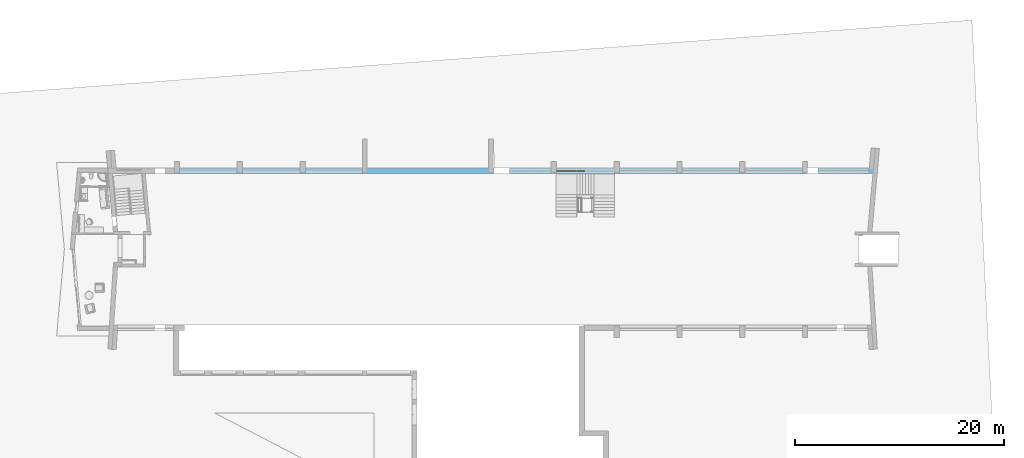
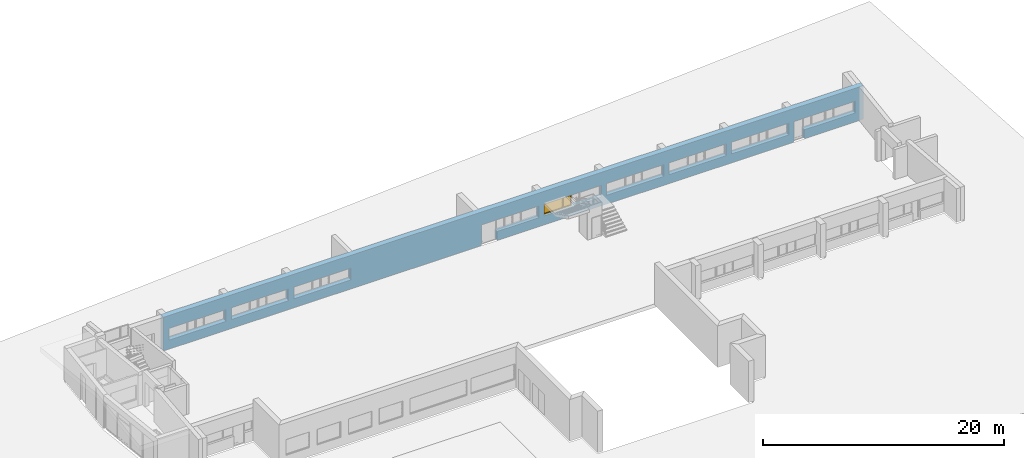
# One storey, part 21 of 36: 1 window, 20 openings, plus 1 element that does not belong to this part.
"""IFC2X3 building model written with IfcOpenShell, lengths in millimetres."""

from ifc_helpers import new_model, entity, si_unit, converted_unit, money_unit, direction, frame, origin_with_axes, place, context, subcontext, project, spatial, polyline, outline, extrude, open_shell, faceted_brep, surface_model, material, material_list, layer, layer_set, layer_usage, type_object, element, fill, save


model = new_model("IFC2X3")

# Units and contexts
model_context = context("Model", 3, precision=1e-05, world=origin_with_axes(), true_north=direction((0.0, 1.0)))
body_context = subcontext(model_context, "Body", "Model", "MODEL_VIEW")
ifc_project = project(units=[si_unit("LENGTHUNIT", "METRE", prefix="MILLI"), si_unit("AREAUNIT", "SQUARE_METRE"), si_unit("VOLUMEUNIT", "CUBIC_METRE"), converted_unit("PLANEANGLEUNIT", "DEGREE", entity("IfcPlaneAngleMeasure", 0.0174532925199), si_unit("PLANEANGLEUNIT", "RADIAN"), dimensions=[0, 0, 0, 0, 0, 0, 0]), si_unit("SOLIDANGLEUNIT", "STERADIAN"), money_unit("USD"), converted_unit("TIMEUNIT", "Year", entity("IfcTimeMeasure", 31556926.0), si_unit("TIMEUNIT", "SECOND"), dimensions=[0, 0, 0, 0, 0, 0, 0]), si_unit("MASSUNIT", "GRAM"), si_unit("THERMODYNAMICTEMPERATUREUNIT", "DEGREE_CELSIUS"), si_unit("LUMINOUSINTENSITYUNIT", "LUMEN")], contexts=[model_context])

# Site, building, storey
site_placement = place(None, origin_with_axes())
site = spatial("IfcSite", under=ifc_project, at=site_placement, Name="Site", CompositionType="ELEMENT")
building_placement = place(site_placement, origin_with_axes())
building = spatial("IfcBuilding", under=site, at=building_placement, Name="Building", CompositionType="ELEMENT")
storey_placement = place(building_placement, frame((0.0, 0.0, -3400.0), z_axis=(0.0, 0.0, 1.0), x_axis=(1.0, 0.0, 0.0)))
storey = spatial("IfcBuildingStorey", under=building, at=storey_placement, Name="1KORRUS", CompositionType="ELEMENT", Elevation=-3400.0)

# Wall, openings, window
ifc_material_1 = material(Name="Olemasolevad seinad tellis, uus viimistlus")
ifc_layer = layer(ifc_material_1, 500.0, ventilated="UNKNOWN")
ifc_layer_set = layer_set([ifc_layer], Name="Olemasolevad seinad tellis, uus viimistlus 500")
ifc_layer_usage = layer_usage(ifc_layer_set, "AXIS2", "POSITIVE", -100.0)
wall_type = type_object("IfcWallType", Name="Olemasolevad seinad tellis, uus viimistlus 500", PredefinedType="NOTDEFINED")
wall_placement = place(storey_placement, frame((-48393.8274049, -5039.6041088, 0.0), z_axis=(0.0, 0.0, 1.0), x_axis=(1.0, 0.0, 0.0)))
wall = element("IfcWallStandardCase", 1, at=wall_placement, inside=storey, type_object=wall_type, material=ifc_layer_usage, Name="VS1", ObjectType="VS1", context=body_context, shape_type="SweptSolid", body=[
    extrude(outline(polyline([(0.0, -100.0), (67149.8194303, -100.0), (67149.8194303, 400.0), (0.0, 400.0), (0.0, -100.0)])), origin_with_axes(), (0.0, 0.0, 1.0), 3400.0),
])
opening_1_placement = place(wall_placement, frame((1878.53070154, 0.0, 900.0), z_axis=(0.0, 0.0, 1.0), x_axis=(1.0, 0.0, 0.0)))
element("IfcOpeningElement", 2, at=opening_1_placement, cuts=wall, Name="Olemasolevad aknad jäävad", context=body_context, shape_type="SweptSolid", body=[
    extrude(outline(polyline([(-1375.0, 1200.0), (-1375.0, 0.0), (1375.0, 0.0), (1375.0, 1200.0), (-1375.0, 1200.0)])), frame((0.0, 250.0, 0.0), z_axis=(0.0, -1.0, 0.0), x_axis=(1.0, 0.0, 0.0)), (0.0, 0.0, 1.0), 850.0),
    extrude(outline(polyline([(-1375.0, 0.0), (-1375.0, -1200.0), (1375.0, -1200.0), (1375.0, 0.0), (-1375.0, 0.0)])), frame((0.0, 250.0, 0.0), z_axis=(0.0, 1.0, 0.0), x_axis=(1.0, 0.0, 0.0)), (0.0, 0.0, 1.0), 650.0),
])
opening_2_placement = place(wall_placement, frame((7878.53070154, 0.0, 900.0), z_axis=(0.0, 0.0, 1.0), x_axis=(1.0, 0.0, 0.0)))
element("IfcOpeningElement", 3, at=opening_2_placement, cuts=wall, Name="Olemasolevad aknad jäävad", context=body_context, shape_type="SweptSolid", body=[
    extrude(outline(polyline([(-1375.0, 1200.0), (-1375.0, 0.0), (1375.0, 0.0), (1375.0, 1200.0), (-1375.0, 1200.0)])), frame((0.0, 250.0, 0.0), z_axis=(0.0, -1.0, 0.0), x_axis=(1.0, 0.0, 0.0)), (0.0, 0.0, 1.0), 850.0),
    extrude(outline(polyline([(-1375.0, 0.0), (-1375.0, -1200.0), (1375.0, -1200.0), (1375.0, 0.0), (-1375.0, 0.0)])), frame((0.0, 250.0, 0.0), z_axis=(0.0, 1.0, 0.0), x_axis=(1.0, 0.0, 0.0)), (0.0, 0.0, 1.0), 650.0),
])
opening_3_placement = place(wall_placement, frame((13878.5307015, 0.0, 900.0), z_axis=(0.0, 0.0, 1.0), x_axis=(1.0, 0.0, 0.0)))
element("IfcOpeningElement", 4, at=opening_3_placement, cuts=wall, Name="Olemasolevad aknad jäävad", context=body_context, shape_type="SweptSolid", body=[
    extrude(outline(polyline([(-1375.0, 1200.0), (-1375.0, 0.0), (1375.0, 0.0), (1375.0, 1200.0), (-1375.0, 1200.0)])), frame((0.0, 250.0, 0.0), z_axis=(0.0, -1.0, 0.0), x_axis=(1.0, 0.0, 0.0)), (0.0, 0.0, 1.0), 850.0),
    extrude(outline(polyline([(-1375.0, 0.0), (-1375.0, -1200.0), (1375.0, -1200.0), (1375.0, 0.0), (-1375.0, 0.0)])), frame((0.0, 250.0, 0.0), z_axis=(0.0, 1.0, 0.0), x_axis=(1.0, 0.0, 0.0)), (0.0, 0.0, 1.0), 650.0),
])
opening_4_placement = place(wall_placement, frame((4628.53070154, 0.0, 900.0), z_axis=(0.0, 0.0, 1.0), x_axis=(1.0, 0.0, 0.0)))
element("IfcOpeningElement", 5, at=opening_4_placement, cuts=wall, Name="Olemasolevad aknad jäävad", context=body_context, shape_type="SweptSolid", body=[
    extrude(outline(polyline([(1375.0, 1200.0), (-1375.0, 1200.0), (-1375.0, 0.0), (1375.0, 0.0), (1375.0, 1200.0)])), frame((0.0, 250.0, 0.0), z_axis=(0.0, -1.0, 0.0), x_axis=(1.0, 0.0, 0.0)), (0.0, 0.0, 1.0), 850.0),
    extrude(outline(polyline([(1375.0, 0.0), (-1375.0, 0.0), (-1375.0, -1200.0), (1375.0, -1200.0), (1375.0, 0.0)])), frame((0.0, 250.0, 0.0), z_axis=(0.0, 1.0, 0.0), x_axis=(1.0, 0.0, 0.0)), (0.0, 0.0, 1.0), 650.0),
])
opening_5_placement = place(wall_placement, frame((10628.5307015, 0.0, 900.0), z_axis=(0.0, 0.0, 1.0), x_axis=(1.0, 0.0, 0.0)))
element("IfcOpeningElement", 6, at=opening_5_placement, cuts=wall, Name="Olemasolevad aknad jäävad", context=body_context, shape_type="SweptSolid", body=[
    extrude(outline(polyline([(1375.0, 1200.0), (-1375.0, 1200.0), (-1375.0, 0.0), (1375.0, 0.0), (1375.0, 1200.0)])), frame((0.0, 250.0, 0.0), z_axis=(0.0, -1.0, 0.0), x_axis=(1.0, 0.0, 0.0)), (0.0, 0.0, 1.0), 850.0),
    extrude(outline(polyline([(1375.0, 0.0), (-1375.0, 0.0), (-1375.0, -1200.0), (1375.0, -1200.0), (1375.0, 0.0)])), frame((0.0, 250.0, 0.0), z_axis=(0.0, 1.0, 0.0), x_axis=(1.0, 0.0, 0.0)), (0.0, 0.0, 1.0), 650.0),
])
opening_6_placement = place(wall_placement, frame((16616.9651775, 0.0, 900.0), z_axis=(0.0, 0.0, 1.0), x_axis=(1.0, 0.0, 0.0)))
element("IfcOpeningElement", 7, at=opening_6_placement, cuts=wall, Name="Olemasolevad aknad jäävad", context=body_context, shape_type="SweptSolid", body=[
    extrude(outline(polyline([(1375.0, 1200.0), (-1375.0, 1200.0), (-1375.0, 0.0), (1375.0, 0.0), (1375.0, 1200.0)])), frame((0.0, 250.0, 0.0), z_axis=(0.0, -1.0, 0.0), x_axis=(1.0, 0.0, 0.0)), (0.0, 0.0, 1.0), 850.0),
    extrude(outline(polyline([(1375.0, 0.0), (-1375.0, 0.0), (-1375.0, -1200.0), (1375.0, -1200.0), (1375.0, 0.0)])), frame((0.0, 250.0, 0.0), z_axis=(0.0, 1.0, 0.0), x_axis=(1.0, 0.0, 0.0)), (0.0, 0.0, 1.0), 650.0),
])
opening_7_placement = place(wall_placement, frame((34803.5307015, 0.0, 900.0), z_axis=(0.0, 0.0, 1.0), x_axis=(1.0, 0.0, 0.0)))
element("IfcOpeningElement", 8, at=opening_7_placement, cuts=wall, Name="Olemasolevad aknad jäävad", context=body_context, shape_type="SweptSolid", body=[
    extrude(outline(polyline([(1200.0, 0.0), (-1200.0, 0.0), (-1200.0, -1200.0), (1200.0, -1200.0), (1200.0, 0.0)])), frame((0.0, 100.0, 0.0), z_axis=(0.0, 1.0, 0.0), x_axis=(1.0, 0.0, 0.0)), (0.0, 0.0, 1.0), 800.0),
    extrude(outline(polyline([(1200.0, 1200.0), (-1200.0, 1200.0), (-1200.0, 0.0), (1200.0, 0.0), (1200.0, 1200.0)])), frame((0.0, 100.0, 0.0), z_axis=(0.0, -1.0, 0.0), x_axis=(1.0, 0.0, 0.0)), (0.0, 0.0, 1.0), 700.0),
])
opening_8_placement = place(wall_placement, frame((40625.1633636, 0.0, 900.0), z_axis=(0.0, 0.0, 1.0), x_axis=(1.0, 0.0, 0.0)))
element("IfcOpeningElement", 9, at=opening_8_placement, cuts=wall, Name="Olemasolevad aknad jäävad", context=body_context, shape_type="SweptSolid", body=[
    extrude(outline(polyline([(1400.0, 0.0), (-1400.0, 0.0), (-1400.0, -1200.0), (1400.0, -1200.0), (1400.0, 0.0)])), frame((0.0, 100.0, 0.0), z_axis=(0.0, 1.0, 0.0), x_axis=(1.0, 0.0, 0.0)), (0.0, 0.0, 1.0), 800.0),
    extrude(outline(polyline([(1400.0, 1200.0), (-1400.0, 1200.0), (-1400.0, 0.0), (1400.0, 0.0), (1400.0, 1200.0)])), frame((0.0, 100.0, 0.0), z_axis=(0.0, -1.0, 0.0), x_axis=(1.0, 0.0, 0.0)), (0.0, 0.0, 1.0), 700.0),
])
opening_9_placement = place(wall_placement, frame((37871.3218818, 0.0, 900.0), z_axis=(0.0, 0.0, 1.0), x_axis=(1.0, 0.0, 0.0)))
opening_9 = element("IfcOpeningElement", 10, at=opening_9_placement, cuts=wall, Name="Olemasolevad aknad jäävad", context=body_context, shape_type="SweptSolid", body=[
    extrude(outline(polyline([(-1367.791, 0.0), (-1367.791, -1200.0), (1367.791, -1200.0), (1367.791, 0.0), (-1367.791, 0.0)])), frame((0.0, 150.0, 0.0), z_axis=(0.0, 1.0, 0.0), x_axis=(1.0, 0.0, 0.0)), (0.0, 0.0, 1.0), 750.0),
    extrude(outline(polyline([(-1367.791, 1200.0), (-1367.791, 0.0), (1367.791, 0.0), (1367.791, 1200.0), (-1367.791, 1200.0)])), frame((0.0, 150.0, 0.0), z_axis=(0.0, -1.0, 0.0), x_axis=(1.0, 0.0, 0.0)), (0.0, 0.0, 1.0), 750.0),
])
opening_10_placement = place(wall_placement, frame((46628.5307015, 0.0, 900.0), z_axis=(0.0, 0.0, 1.0), x_axis=(1.0, 0.0, 0.0)))
element("IfcOpeningElement", 11, at=opening_10_placement, cuts=wall, Name="Olemasolevad aknad jäävad", context=body_context, shape_type="SweptSolid", body=[
    extrude(outline(polyline([(1375.0, 1200.0), (-1375.0, 1200.0), (-1375.0, 0.0), (1375.0, 0.0), (1375.0, 1200.0)])), frame((0.0, 150.0, 0.0), z_axis=(0.0, -1.0, 0.0), x_axis=(1.0, 0.0, 0.0)), (0.0, 0.0, 1.0), 750.0),
    extrude(outline(polyline([(1375.0, 0.0), (-1375.0, 0.0), (-1375.0, -1200.0), (1375.0, -1200.0), (1375.0, 0.0)])), frame((0.0, 150.0, 0.0), z_axis=(0.0, 1.0, 0.0), x_axis=(1.0, 0.0, 0.0)), (0.0, 0.0, 1.0), 750.0),
])
opening_11_placement = place(wall_placement, frame((43878.5307015, 0.0, 900.0), z_axis=(0.0, 0.0, 1.0), x_axis=(1.0, 0.0, 0.0)))
element("IfcOpeningElement", 12, at=opening_11_placement, cuts=wall, Name="Olemasolevad aknad jäävad", context=body_context, shape_type="SweptSolid", body=[
    extrude(outline(polyline([(-1375.0, 1200.0), (-1375.0, 0.0), (1375.0, 0.0), (1375.0, 1200.0), (-1375.0, 1200.0)])), frame((0.0, 200.0, 0.0), z_axis=(0.0, -1.0, 0.0), x_axis=(1.0, 0.0, 0.0)), (0.0, 0.0, 1.0), 800.0),
    extrude(outline(polyline([(-1375.0, 0.0), (-1375.0, -1200.0), (1375.0, -1200.0), (1375.0, 0.0), (-1375.0, 0.0)])), frame((0.0, 200.0, 0.0), z_axis=(0.0, 1.0, 0.0), x_axis=(1.0, 0.0, 0.0)), (0.0, 0.0, 1.0), 700.0),
])
opening_12_placement = place(wall_placement, frame((52635.3834465, 0.0, 900.0), z_axis=(0.0, 0.0, 1.0), x_axis=(1.0, 0.0, 0.0)))
element("IfcOpeningElement", 13, at=opening_12_placement, cuts=wall, Name="Olemasolevad aknad jäävad", context=body_context, shape_type="SweptSolid", body=[
    extrude(outline(polyline([(1376.809, 1200.0), (-1376.809, 1200.0), (-1376.809, 0.0), (1376.809, 0.0), (1376.809, 1200.0)])), frame((0.0, 150.0, 0.0), z_axis=(0.0, -1.0, 0.0), x_axis=(1.0, 0.0, 0.0)), (0.0, 0.0, 1.0), 750.0),
    extrude(outline(polyline([(1376.809, 0.0), (-1376.809, 0.0), (-1376.809, -1200.0), (1376.809, -1200.0), (1376.809, 0.0)])), frame((0.0, 150.0, 0.0), z_axis=(0.0, 1.0, 0.0), x_axis=(1.0, 0.0, 0.0)), (0.0, 0.0, 1.0), 750.0),
])
opening_13_placement = place(wall_placement, frame((49883.9987013, 0.0, 900.0), z_axis=(0.0, 0.0, 1.0), x_axis=(1.0, 0.0, 0.0)))
element("IfcOpeningElement", 14, at=opening_13_placement, cuts=wall, Name="Olemasolevad aknad jäävad", context=body_context, shape_type="SweptSolid", body=[
    extrude(outline(polyline([(-1375.0, 1200.0), (-1375.0, 0.0), (1375.0, 0.0), (1375.0, 1200.0), (-1375.0, 1200.0)])), frame((0.0, 200.0, 0.0), z_axis=(0.0, -1.0, 0.0), x_axis=(1.0, 0.0, 0.0)), (0.0, 0.0, 1.0), 800.0),
    extrude(outline(polyline([(-1375.0, 0.0), (-1375.0, -1200.0), (1375.0, -1200.0), (1375.0, 0.0), (-1375.0, 0.0)])), frame((0.0, 200.0, 0.0), z_axis=(0.0, 1.0, 0.0), x_axis=(1.0, 0.0, 0.0)), (0.0, 0.0, 1.0), 700.0),
])
opening_14_placement = place(wall_placement, frame((58631.8843372, 0.0, 900.0), z_axis=(0.0, 0.0, 1.0), x_axis=(1.0, 0.0, 0.0)))
element("IfcOpeningElement", 15, at=opening_14_placement, cuts=wall, Name="Olemasolevad aknad jäävad", context=body_context, shape_type="SweptSolid", body=[
    extrude(outline(polyline([(1371.646, 1200.0), (-1371.646, 1200.0), (-1371.646, 0.0), (1371.646, 0.0), (1371.646, 1200.0)])), frame((0.0, 150.0, 0.0), z_axis=(0.0, -1.0, 0.0), x_axis=(1.0, 0.0, 0.0)), (0.0, 0.0, 1.0), 750.0),
    extrude(outline(polyline([(1371.646, 0.0), (-1371.646, 0.0), (-1371.646, -1200.0), (1371.646, -1200.0), (1371.646, 0.0)])), frame((0.0, 150.0, 0.0), z_axis=(0.0, 1.0, 0.0), x_axis=(1.0, 0.0, 0.0)), (0.0, 0.0, 1.0), 750.0),
])
opening_15_placement = place(wall_placement, frame((55886.6217615, 0.0, 900.0), z_axis=(0.0, 0.0, 1.0), x_axis=(1.0, 0.0, 0.0)))
element("IfcOpeningElement", 16, at=opening_15_placement, cuts=wall, Name="Olemasolevad aknad jäävad", context=body_context, shape_type="SweptSolid", body=[
    extrude(outline(polyline([(-1375.0, 1200.0), (-1375.0, 0.0), (1375.0, 0.0), (1375.0, 1200.0), (-1375.0, 1200.0)])), frame((0.0, 200.0, 0.0), z_axis=(0.0, -1.0, 0.0), x_axis=(1.0, 0.0, 0.0)), (0.0, 0.0, 1.0), 800.0),
    extrude(outline(polyline([(-1375.0, 0.0), (-1375.0, -1200.0), (1375.0, -1200.0), (1375.0, 0.0), (-1375.0, 0.0)])), frame((0.0, 200.0, 0.0), z_axis=(0.0, 1.0, 0.0), x_axis=(1.0, 0.0, 0.0)), (0.0, 0.0, 1.0), 700.0),
])
opening_16_placement = place(wall_placement, frame((64995.2517085, 0.0, 900.0), z_axis=(0.0, 0.0, 1.0), x_axis=(1.0, 0.0, 0.0)))
element("IfcOpeningElement", 17, at=opening_16_placement, cuts=wall, Name="Olemasolevad aknad jäävad", context=body_context, shape_type="SweptSolid", body=[
    extrude(outline(polyline([(1375.0, 1200.0), (-1375.0, 1200.0), (-1375.0, 0.0), (1375.0, 0.0), (1375.0, 1200.0)])), frame((0.0, 150.0, 0.0), z_axis=(0.0, -1.0, 0.0), x_axis=(1.0, 0.0, 0.0)), (0.0, 0.0, 1.0), 750.0),
    extrude(outline(polyline([(1375.0, 0.0), (-1375.0, 0.0), (-1375.0, -1200.0), (1375.0, -1200.0), (1375.0, 0.0)])), frame((0.0, 150.0, 0.0), z_axis=(0.0, 1.0, 0.0), x_axis=(1.0, 0.0, 0.0)), (0.0, 0.0, 1.0), 750.0),
])
opening_17_placement = place(wall_placement, frame((32810.8244307, 0.0, 900.0), z_axis=(0.0, 0.0, 1.0), x_axis=(1.0, 0.0, 0.0)))
element("IfcOpeningElement", 18, at=opening_17_placement, cuts=wall, Name="Olemasolevad aknad jäävad", context=body_context, shape_type="SweptSolid", body=[
    extrude(outline(polyline([(792.706, 0.0), (-792.706, 0.0), (-792.706, -1200.0), (792.706, -1200.0), (792.706, 0.0)])), frame((0.0, 100.0, 0.0), z_axis=(0.0, 1.0, 0.0), x_axis=(1.0, 0.0, 0.0)), (0.0, 0.0, 1.0), 800.0),
    extrude(outline(polyline([(792.706, 1200.0), (-792.706, 1200.0), (-792.706, 0.0), (792.706, 0.0), (792.706, 1200.0)])), frame((0.0, 100.0, 0.0), z_axis=(0.0, -1.0, 0.0), x_axis=(1.0, 0.0, 0.0)), (0.0, 0.0, 1.0), 700.0),
])
opening_18_placement = place(wall_placement, frame((62561.891205, 0.0, 900.0), z_axis=(0.0, 0.0, 1.0), x_axis=(1.0, 0.0, 0.0)))
element("IfcOpeningElement", 19, at=opening_18_placement, cuts=wall, Name="Olemasolevad aknad jäävad", context=body_context, shape_type="SweptSolid", body=[
    extrude(outline(polyline([(1058.361, 1200.0), (-1058.361, 1200.0), (-1058.361, 0.0), (1058.361, 0.0), (1058.361, 1200.0)])), frame((0.0, 150.0, 0.0), z_axis=(0.0, -1.0, 0.0), x_axis=(1.0, 0.0, 0.0)), (0.0, 0.0, 1.0), 750.0),
    extrude(outline(polyline([(1058.361, 0.0), (-1058.361, 0.0), (-1058.361, -1200.0), (1058.361, -1200.0), (1058.361, 0.0)])), frame((0.0, 150.0, 0.0), z_axis=(0.0, 1.0, 0.0), x_axis=(1.0, 0.0, 0.0)), (0.0, 0.0, 1.0), 750.0),
])
opening_19_placement = place(wall_placement, frame((61003.5307015, 0.0, -4.66441168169), z_axis=(0.0, 0.0, 1.0), x_axis=(1.0, 0.0, 0.0)))
element("IfcOpeningElement", 20, at=opening_19_placement, cuts=wall, Name="ava", context=body_context, shape_type="SweptSolid", body=[
    extrude(outline(polyline([(-500.0, 2100.0), (-500.0, 0.0), (500.0, 0.0), (500.0, 2100.0), (-500.0, 2100.0)])), frame((0.0, 200.0, 0.0), z_axis=(0.0, 1.0, 0.0), x_axis=(-1.0, 0.0, 0.0)), (0.0, 0.0, -1.0), 800.0),
    extrude(outline(polyline([(-500.0, 0.0), (-500.0, -2100.0), (500.0, -2100.0), (500.0, 0.0), (-500.0, 0.0)])), frame((0.0, 200.0, 0.0), z_axis=(0.0, -1.0, 0.0), x_axis=(-1.0, 0.0, 0.0)), (0.0, 0.0, -1.0), 700.0),
])
opening_20_placement = place(wall_placement, frame((31268.1181599, 0.0, 0.0), z_axis=(0.0, 0.0, 1.0), x_axis=(1.0, 0.0, 0.0)))
element("IfcOpeningElement", 21, at=opening_20_placement, cuts=wall, Name="ava", context=body_context, shape_type="SweptSolid", body=[
    extrude(outline(polyline([(-750.0, 2100.0), (-750.0, 0.0), (750.0, 0.0), (750.0, 2100.0), (-750.0, 2100.0)])), frame((0.0, 200.0, 0.0), z_axis=(0.0, -1.0, 0.0), x_axis=(1.0, 0.0, 0.0)), (0.0, 0.0, 1.0), 800.0),
    extrude(outline(polyline([(-750.0, 0.0), (-750.0, -2100.0), (750.0, -2100.0), (750.0, 0.0), (-750.0, 0.0)])), frame((0.0, 200.0, 0.0), z_axis=(0.0, 1.0, 0.0), x_axis=(1.0, 0.0, 0.0)), (0.0, 0.0, 1.0), 700.0),
])
ifc_material_2 = material(Name="Background")
ifc_material_list = material_list([ifc_material_2])
window_style = type_object("IfcWindowStyle", Name="Double Window 19", ConstructionType="NOTDEFINED", OperationType="DOUBLE_PANEL_VERTICAL", ParameterTakesPrecedence=False, Sizeable=False)
window_placement = place(opening_9_placement, frame((-1367.79118025, 0.0, 0.0), z_axis=(0.0, 0.0, 1.0), x_axis=(1.0, 0.0, 0.0)))
window = element("IfcWindow", 22, at=window_placement, inside=storey, type_object=window_style, material=ifc_material_list, Name="Olemasolevad aknad jäävad", ObjectType="Olemasolevad aknad jäävad", OverallHeight=1200.0, OverallWidth=2735.58, context=body_context, shape_type="SurfaceModel", body=[
    faceted_brep([(25.0, 150.0, 1150.0), (0.0, 150.0, 1150.0), (0.0, 100.0, 1150.0), (50.0, 100.0, 1150.0), (50.0, 125.0, 1150.0), (25.0, 125.0, 1150.0), (25.0, 150.0, 50.0), (0.0, 150.0, 50.0), (0.0, 100.0, 50.0), (50.0, 100.0, 50.0), (50.0, 125.0, 50.0), (25.0, 125.0, 50.0)], [[[0, 1, 2, 3, 4, 5]], [[6, 7, 1, 0]], [[1, 7, 8, 2]], [[2, 8, 9, 3]], [[4, 3, 9, 10]], [[10, 11, 5, 4]], [[5, 11, 6, 0]], [[11, 10, 9, 8, 7, 6]]]),
    faceted_brep([(2685.582, 125.0, 1150.0), (2685.582, 100.0, 1150.0), (2735.582, 100.0, 1150.0), (2735.582, 150.0, 1150.0), (2710.582, 150.0, 1150.0), (2710.582, 125.0, 1150.0), (2685.582, 125.0, 50.0), (2685.582, 100.0, 50.0), (2735.582, 100.0, 50.0), (2735.582, 150.0, 50.0), (2710.582, 150.0, 50.0), (2710.582, 125.0, 50.0)], [[[0, 1, 2, 3, 4, 5]], [[6, 7, 1, 0]], [[8, 2, 1, 7]], [[9, 3, 2, 8]], [[4, 3, 9, 10]], [[10, 11, 5, 4]], [[5, 11, 6, 0]], [[11, 10, 9, 8, 7, 6]]]),
    faceted_brep([(1885.582, 125.0, 1150.0), (1885.582, 100.0, 1150.0), (1985.582, 100.0, 1150.0), (1985.582, 125.0, 1150.0), (1960.582, 125.0, 1150.0), (1960.582, 150.0, 1150.0), (1910.582, 150.0, 1150.0), (1910.582, 125.0, 1150.0), (1885.582, 125.0, 50.0), (1885.582, 100.0, 50.0), (1985.582, 100.0, 50.0), (1985.582, 125.0, 50.0), (1960.582, 125.0, 50.0), (1960.582, 150.0, 50.0), (1910.582, 150.0, 50.0), (1910.582, 125.0, 50.0)], [[[0, 1, 2, 3, 4, 5, 6, 7]], [[8, 9, 1, 0]], [[10, 2, 1, 9]], [[3, 2, 10, 11]], [[11, 12, 4, 3]], [[4, 12, 13, 5]], [[6, 5, 13, 14]], [[14, 15, 7, 6]], [[7, 15, 8, 0]], [[15, 14, 13, 12, 11, 10, 9, 8]]]),
    faceted_brep([(1885.582, 125.0, 50.0), (1885.582, 100.0, 50.0), (1985.582, 100.0, 50.0), (1985.582, 125.0, 50.0), (1960.582, 125.0, 50.0), (1960.582, 150.0, 50.0), (1910.582, 150.0, 50.0), (1910.582, 125.0, 50.0), (50.0, 125.0, 50.0), (50.0, 100.0, 50.0), (0.0, 100.0, 50.0), (0.0, 100.0, 0.0), (2735.582, 100.0, 0.0), (2735.582, 100.0, 50.0), (2685.582, 100.0, 50.0), (2685.582, 125.0, 50.0), (2710.582, 125.0, 50.0), (2710.582, 125.0, 25.0), (1960.582, 125.0, 25.0), (1960.582, 150.0, 25.0), (25.0, 150.0, 25.0), (1910.582, 150.0, 25.0), (2710.582, 150.0, 25.0), (2710.582, 150.0, 50.0), (2735.582, 150.0, 50.0), (2735.582, 150.0, 0.0), (0.0, 150.0, 0.0), (0.0, 150.0, 50.0), (25.0, 150.0, 50.0), (1910.582, 125.0, 25.0), (25.0, 125.0, 25.0), (25.0, 125.0, 50.0)], [[[0, 1, 2, 3, 4, 5, 6, 7]], [[8, 9, 1, 0]], [[10, 11, 12, 13, 14, 2, 1, 9]], [[3, 2, 14, 15]], [[16, 17, 18, 4, 3, 15]], [[4, 18, 19, 5]], [[20, 21, 6, 5, 19, 22, 23, 24, 25, 26, 27, 28]], [[21, 29, 7, 6]], [[7, 29, 30, 31, 8, 0]], [[31, 28, 27, 10, 9, 8]], [[27, 26, 11, 10]], [[26, 25, 12, 11]], [[25, 24, 13, 12]], [[15, 14, 13, 24, 23, 16]], [[22, 17, 16, 23]], [[19, 18, 17, 22]], [[20, 30, 29, 21]], [[31, 30, 20, 28]]]),
    faceted_brep([(25.0, 150.0, 1150.0), (0.0, 150.0, 1150.0), (0.0, 150.0, 1200.0), (2735.582, 150.0, 1200.0), (2735.582, 150.0, 1150.0), (2710.582, 150.0, 1150.0), (2710.582, 150.0, 1175.0), (1960.582, 150.0, 1175.0), (1960.582, 150.0, 1150.0), (1910.582, 150.0, 1150.0), (1910.582, 150.0, 1175.0), (25.0, 150.0, 1175.0), (25.0, 125.0, 1150.0), (50.0, 125.0, 1150.0), (50.0, 100.0, 1150.0), (0.0, 100.0, 1150.0), (0.0, 100.0, 1200.0), (2735.582, 100.0, 1200.0), (2735.582, 100.0, 1150.0), (2710.582, 125.0, 1150.0), (2685.582, 100.0, 1150.0), (2685.582, 125.0, 1150.0), (2710.582, 125.0, 1175.0), (1960.582, 125.0, 1175.0), (1960.582, 125.0, 1150.0), (1910.582, 125.0, 1150.0), (1985.582, 125.0, 1150.0), (1985.582, 100.0, 1150.0), (1885.582, 100.0, 1150.0), (1885.582, 125.0, 1150.0), (1910.582, 125.0, 1175.0), (25.0, 125.0, 1175.0)], [[[0, 1, 2, 3, 4, 5, 6, 7, 8, 9, 10, 11]], [[12, 13, 14, 15, 1, 0]], [[2, 1, 15, 16]], [[3, 2, 16, 17]], [[4, 3, 17, 18]], [[19, 5, 4, 18, 20, 21]], [[5, 19, 22, 6]], [[6, 22, 23, 7]], [[7, 23, 24, 8]], [[25, 9, 8, 24, 26, 27, 28, 29]], [[9, 25, 30, 10]], [[10, 30, 31, 11]], [[11, 31, 12, 0]], [[29, 13, 12, 31, 30, 25]], [[29, 28, 14, 13]], [[27, 20, 18, 17, 16, 15, 14, 28]], [[21, 20, 27, 26]], [[21, 26, 24, 23, 22, 19]]]),
    faceted_brep([(75.0, 125.0, 1125.0), (75.0, 175.0, 1125.0), (25.0, 175.0, 1125.0), (25.0, 125.0, 1125.0), (75.0, 125.0, 75.0), (75.0, 175.0, 75.0), (25.0, 175.0, 75.0), (25.0, 125.0, 75.0)], [[[0, 1, 2, 3]], [[4, 5, 1, 0]], [[1, 5, 6, 2]], [[3, 2, 6, 7]], [[0, 3, 7, 4]], [[7, 6, 5, 4]]]),
    faceted_brep([(1860.582, 125.0, 75.0), (1860.582, 175.0, 75.0), (1910.582, 175.0, 75.0), (1910.582, 125.0, 75.0), (1860.582, 125.0, 1125.0), (1860.582, 175.0, 1125.0), (1910.582, 175.0, 1125.0), (1910.582, 125.0, 1125.0)], [[[0, 1, 2, 3]], [[4, 5, 1, 0]], [[1, 5, 6, 2]], [[3, 2, 6, 7]], [[0, 3, 7, 4]], [[7, 6, 5, 4]]]),
    faceted_brep([(1910.582, 125.0, 25.0), (1910.582, 175.0, 25.0), (1910.582, 175.0, 75.0), (1910.582, 125.0, 75.0), (25.0, 125.0, 25.0), (25.0, 175.0, 25.0), (25.0, 175.0, 75.0), (75.0, 175.0, 75.0), (1860.582, 175.0, 75.0), (1860.582, 125.0, 75.0), (75.0, 125.0, 75.0), (25.0, 125.0, 75.0)], [[[0, 1, 2, 3]], [[4, 5, 1, 0]], [[1, 5, 6, 7, 8, 2]], [[3, 2, 8, 9]], [[0, 3, 9, 10, 11, 4]], [[11, 6, 5, 4]], [[10, 7, 6, 11]], [[9, 8, 7, 10]]]),
    faceted_brep([(25.0, 125.0, 1175.0), (25.0, 175.0, 1175.0), (25.0, 175.0, 1125.0), (25.0, 125.0, 1125.0), (1910.582, 125.0, 1175.0), (1910.582, 175.0, 1175.0), (1910.582, 175.0, 1125.0), (1860.582, 175.0, 1125.0), (75.0, 175.0, 1125.0), (75.0, 125.0, 1125.0), (1860.582, 125.0, 1125.0), (1910.582, 125.0, 1125.0)], [[[0, 1, 2, 3]], [[4, 5, 1, 0]], [[1, 5, 6, 7, 8, 2]], [[3, 2, 8, 9]], [[0, 3, 9, 10, 11, 4]], [[11, 6, 5, 4]], [[10, 7, 6, 11]], [[9, 8, 7, 10]]]),
    surface_model("IfcShellBasedSurfaceModel", [(75.0, 140.0, 75.0), (1860.582, 140.0, 75.0), (1860.582, 140.0, 1125.0), (75.0, 140.0, 1125.0)], [open_shell([[[0, 1, 2, 3]]])]),
    surface_model("IfcShellBasedSurfaceModel", [(75.0, 160.0, 75.0), (75.0, 160.0, 1125.0), (1860.582, 160.0, 1125.0), (1860.582, 160.0, 75.0)], [open_shell([[[0, 1, 2, 3]]])]),
    faceted_brep([(2010.582, 125.0, 1125.0), (2010.582, 175.0, 1125.0), (1960.582, 175.0, 1125.0), (1960.582, 125.0, 1125.0), (2010.582, 125.0, 75.0), (2010.582, 175.0, 75.0), (1960.582, 175.0, 75.0), (1960.582, 125.0, 75.0)], [[[0, 1, 2, 3]], [[4, 5, 1, 0]], [[1, 5, 6, 2]], [[3, 2, 6, 7]], [[0, 3, 7, 4]], [[7, 6, 5, 4]]]),
    faceted_brep([(2660.582, 125.0, 75.0), (2660.582, 175.0, 75.0), (2710.582, 175.0, 75.0), (2710.582, 125.0, 75.0), (2660.582, 125.0, 1125.0), (2660.582, 175.0, 1125.0), (2710.582, 175.0, 1125.0), (2710.582, 125.0, 1125.0)], [[[0, 1, 2, 3]], [[4, 5, 1, 0]], [[1, 5, 6, 2]], [[3, 2, 6, 7]], [[0, 3, 7, 4]], [[7, 6, 5, 4]]]),
    faceted_brep([(2710.582, 125.0, 25.0), (2710.582, 175.0, 25.0), (2710.582, 175.0, 75.0), (2710.582, 125.0, 75.0), (1960.582, 125.0, 25.0), (1960.582, 175.0, 25.0), (1960.582, 175.0, 75.0), (2010.582, 175.0, 75.0), (2660.582, 175.0, 75.0), (2660.582, 125.0, 75.0), (2010.582, 125.0, 75.0), (1960.582, 125.0, 75.0)], [[[0, 1, 2, 3]], [[4, 5, 1, 0]], [[1, 5, 6, 7, 8, 2]], [[3, 2, 8, 9]], [[0, 3, 9, 10, 11, 4]], [[11, 6, 5, 4]], [[10, 7, 6, 11]], [[9, 8, 7, 10]]]),
    faceted_brep([(1960.582, 125.0, 1175.0), (1960.582, 175.0, 1175.0), (1960.582, 175.0, 1125.0), (1960.582, 125.0, 1125.0), (2710.582, 125.0, 1175.0), (2710.582, 175.0, 1175.0), (2710.582, 175.0, 1125.0), (2660.582, 175.0, 1125.0), (2010.582, 175.0, 1125.0), (2010.582, 125.0, 1125.0), (2660.582, 125.0, 1125.0), (2710.582, 125.0, 1125.0)], [[[0, 1, 2, 3]], [[4, 5, 1, 0]], [[1, 5, 6, 7, 8, 2]], [[3, 2, 8, 9]], [[0, 3, 9, 10, 11, 4]], [[11, 6, 5, 4]], [[10, 7, 6, 11]], [[9, 8, 7, 10]]]),
    surface_model("IfcShellBasedSurfaceModel", [(2010.582, 140.0, 75.0), (2660.582, 140.0, 75.0), (2660.582, 140.0, 1125.0), (2010.582, 140.0, 1125.0)], [open_shell([[[0, 1, 2, 3]]])]),
    surface_model("IfcShellBasedSurfaceModel", [(2010.582, 160.0, 75.0), (2010.582, 160.0, 1125.0), (2660.582, 160.0, 1125.0), (2660.582, 160.0, 75.0)], [open_shell([[[0, 1, 2, 3]]])]),
])
fill(opening_9, window)

save(model, "model.ifc")
